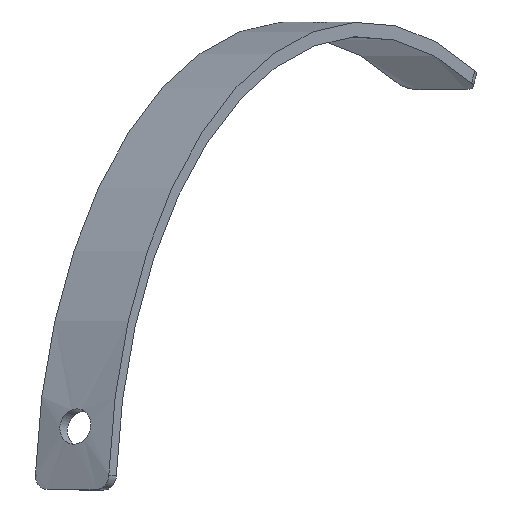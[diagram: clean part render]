
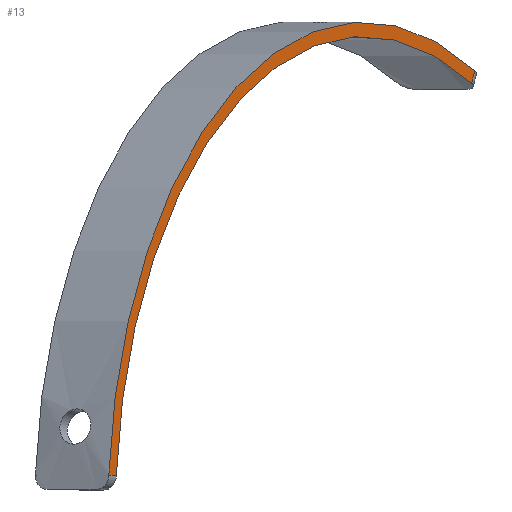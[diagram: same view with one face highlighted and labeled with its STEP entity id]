
A CAD part, left-side view. The second image highlights one B-rep face of the part: STEP entity #13.
In plain terms, the highlighted planar face has unit normal (-0.522, -0.853, 0).
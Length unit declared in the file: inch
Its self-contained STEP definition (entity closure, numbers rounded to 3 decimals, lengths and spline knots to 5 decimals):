
#13 = ADVANCED_FACE ( 'NONE', ( #136 ), #315, .F. ) ;
#78 = ORIENTED_EDGE ( 'NONE', *, *, #816, .T. ) ;
#82 = DIRECTION ( 'NONE',  ( -0.522, -0.853, 0. ) ) ;
#136 = FACE_OUTER_BOUND ( 'NONE', #931, .T. ) ;
#187 = VECTOR ( 'NONE', #466, 39.37008 ) ;
#219 = VERTEX_POINT ( 'NONE', #1001 ) ;
#222 = VECTOR ( 'NONE', #395, 39.37008 ) ;
#231 = DIRECTION ( 'NONE',  ( -0.522, -0.853, 0. ) ) ;
#239 = DIRECTION ( 'NONE',  ( 0.522, 0.853, 0. ) ) ;
#270 = VERTEX_POINT ( 'NONE', #680 ) ;
#307 = CARTESIAN_POINT ( 'NONE',  ( 100.43392, -65.06447, 0. ) ) ;
#312 = ORIENTED_EDGE ( 'NONE', *, *, #438, .T. ) ;
#315 = PLANE ( 'NONE',  #557 ) ;
#393 = CARTESIAN_POINT ( 'NONE',  ( 100.47255, -65.08814, 0.99897 ) ) ;
#395 = DIRECTION ( 'NONE',  ( 0.392, -0.24, 0.888 ) ) ;
#414 = CARTESIAN_POINT ( 'NONE',  ( 100.43392, -65.06447, 0. ) ) ;
#419 = VERTEX_POINT ( 'NONE', #938 ) ;
#438 = EDGE_CURVE ( 'NONE', #419, #270, #731, .T. ) ;
#466 = DIRECTION ( 'NONE',  ( 0.852, -0.522, -0.045 ) ) ;
#539 = CIRCLE ( 'NONE', #888, 34.105 ) ;
#557 = AXIS2_PLACEMENT_3D ( 'NONE', #635, #239, #736 ) ;
#633 = CARTESIAN_POINT ( 'NONE',  ( 99.67695, -64.6006, 0.46025 ) ) ;
#635 = CARTESIAN_POINT ( 'NONE',  ( 100.43392, -65.06447, 0. ) ) ;
#680 = CARTESIAN_POINT ( 'NONE',  ( 72.28775, -47.81648, 2.49829 ) ) ;
#714 = CIRCLE ( 'NONE', #855, 33.105 ) ;
#718 = ORIENTED_EDGE ( 'NONE', *, *, #848, .F. ) ;
#731 = LINE ( 'NONE', #393, #187 ) ;
#733 = VERTEX_POINT ( 'NONE', #875 ) ;
#734 = DIRECTION ( 'NONE',  ( 0.853, -0.522, 0. ) ) ;
#736 = DIRECTION ( 'NONE',  ( -0.853, 0.522, 0. ) ) ;
#816 = EDGE_CURVE ( 'NONE', #219, #733, #1058, .T. ) ;
#848 = EDGE_CURVE ( 'NONE', #219, #270, #714, .T. ) ;
#855 = AXIS2_PLACEMENT_3D ( 'NONE', #307, #231, #734 ) ;
#875 = CARTESIAN_POINT ( 'NONE',  ( 113.05484, -72.79858, 30.72535 ) ) ;
#888 = AXIS2_PLACEMENT_3D ( 'NONE', #414, #82, #1093 ) ;
#889 = ORIENTED_EDGE ( 'NONE', *, *, #1029, .T. ) ;
#931 = EDGE_LOOP ( 'NONE', ( #889, #312, #718, #78 ) ) ;
#938 = CARTESIAN_POINT ( 'NONE',  ( 71.43561, -47.29428, 2.54362 ) ) ;
#1001 = CARTESIAN_POINT ( 'NONE',  ( 112.66224, -72.55799, 29.83716 ) ) ;
#1029 = EDGE_CURVE ( 'NONE', #733, #419, #539, .T. ) ;
#1058 = LINE ( 'NONE', #633, #222 ) ;
#1093 = DIRECTION ( 'NONE',  ( 0.853, -0.522, 0. ) ) ;
